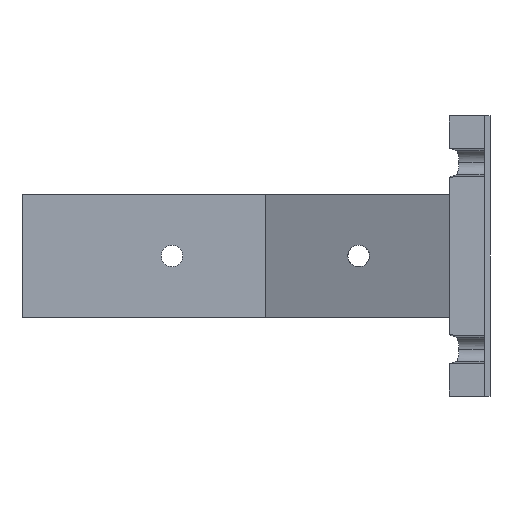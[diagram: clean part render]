
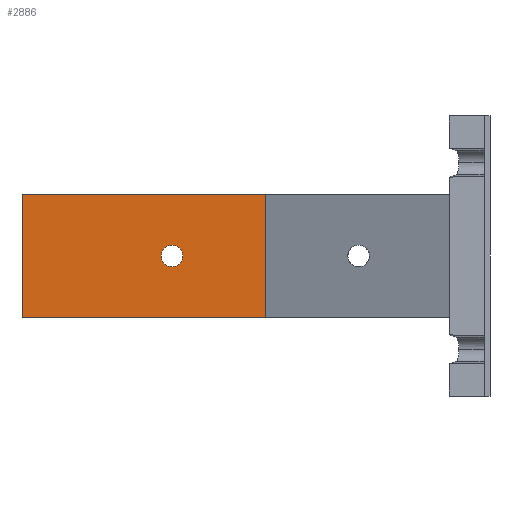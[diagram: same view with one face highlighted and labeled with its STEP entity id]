
A CAD part, left-side view. The second image highlights one B-rep face of the part: STEP entity #2886.
In plain terms, the highlighted planar face has unit normal (-1, 0, 0).
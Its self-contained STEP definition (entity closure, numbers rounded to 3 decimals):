
#11 = CARTESIAN_POINT ( 'NONE',  ( 4.4, 37.424, -9.07 ) ) ;
#41 = DIRECTION ( 'NONE',  ( 0., 1., 0. ) ) ;
#42 = DIRECTION ( 'NONE',  ( -1., 0., 0. ) ) ;
#43 = PLANE ( 'NONE',  #2527 ) ;
#372 = CARTESIAN_POINT ( 'NONE',  ( 4.4, 79.201, -10.55 ) ) ;
#413 = CARTESIAN_POINT ( 'NONE',  ( 4.4, 79.201, 10.55 ) ) ;
#420 = CARTESIAN_POINT ( 'NONE',  ( 4.4, 37.424, -10.55 ) ) ;
#446 = CARTESIAN_POINT ( 'NONE',  ( 4.4, 51.65, 0. ) ) ;
#491 = CARTESIAN_POINT ( 'NONE',  ( 4.4, 37.424, 10.55 ) ) ;
#513 = CARTESIAN_POINT ( 'NONE',  ( 4.4, 55.35, 0. ) ) ;
#562 = LINE ( 'NONE', #2115, #574 ) ;
#574 = VECTOR ( 'NONE', #2172, 1000. ) ;
#679 = FACE_BOUND ( 'NONE', #1294, .T. ) ;
#708 = FACE_OUTER_BOUND ( 'NONE', #1296, .T. ) ;
#822 = CIRCLE ( 'NONE', #2470, 1.85 ) ;
#854 = VECTOR ( 'NONE', #3695, 1000. ) ;
#855 = LINE ( 'NONE', #3694, #854 ) ;
#998 = CIRCLE ( 'NONE', #2469, 1.85 ) ;
#1294 = EDGE_LOOP ( 'NONE', ( #1784, #1856 ) ) ;
#1296 = EDGE_LOOP ( 'NONE', ( #1855, #1777, #1861, #1859 ) ) ;
#1388 = LINE ( 'NONE', #3329, #1434 ) ;
#1434 = VECTOR ( 'NONE', #3330, 1000. ) ;
#1777 = ORIENTED_EDGE ( 'NONE', *, *, #2485, .T. ) ;
#1784 = ORIENTED_EDGE ( 'NONE', *, *, #2511, .F. ) ;
#1855 = ORIENTED_EDGE ( 'NONE', *, *, #2706, .F. ) ;
#1856 = ORIENTED_EDGE ( 'NONE', *, *, #2741, .F. ) ;
#1859 = ORIENTED_EDGE ( 'NONE', *, *, #2778, .F. ) ;
#1861 = ORIENTED_EDGE ( 'NONE', *, *, #2448, .T. ) ;
#2014 = VECTOR ( 'NONE', #3460, 1000. ) ;
#2026 = LINE ( 'NONE', #3461, #2014 ) ;
#2115 = CARTESIAN_POINT ( 'NONE',  ( 4.4, 37.424, -10.55 ) ) ;
#2172 = DIRECTION ( 'NONE',  ( 0., 1., 0. ) ) ;
#2448 = EDGE_CURVE ( 'NONE', #3367, #3432, #1388, .T. ) ;
#2469 = AXIS2_PLACEMENT_3D ( 'NONE', #3114, #3112, #3110 ) ;
#2470 = AXIS2_PLACEMENT_3D ( 'NONE', #3739, #3748, #3749 ) ;
#2485 = EDGE_CURVE ( 'NONE', #3147, #3367, #2026, .T. ) ;
#2511 = EDGE_CURVE ( 'NONE', #3254, #3448, #998, .T. ) ;
#2527 = AXIS2_PLACEMENT_3D ( 'NONE', #11, #42, #41 ) ;
#2706 = EDGE_CURVE ( 'NONE', #3147, #3364, #855, .T. ) ;
#2741 = EDGE_CURVE ( 'NONE', #3448, #3254, #822, .T. ) ;
#2778 = EDGE_CURVE ( 'NONE', #3364, #3432, #562, .T. ) ;
#2886 = ADVANCED_FACE ( 'NONE', ( #679, #708 ), #43, .T. ) ;
#3110 = DIRECTION ( 'NONE',  ( 0., 1., 0. ) ) ;
#3112 = DIRECTION ( 'NONE',  ( -1., 0., 0. ) ) ;
#3114 = CARTESIAN_POINT ( 'NONE',  ( 4.4, 53.5, 0. ) ) ;
#3147 = VERTEX_POINT ( 'NONE', #491 ) ;
#3254 = VERTEX_POINT ( 'NONE', #446 ) ;
#3329 = CARTESIAN_POINT ( 'NONE',  ( 4.4, 79.201, -9.07 ) ) ;
#3330 = DIRECTION ( 'NONE',  ( 0., 0., -1. ) ) ;
#3364 = VERTEX_POINT ( 'NONE', #420 ) ;
#3367 = VERTEX_POINT ( 'NONE', #413 ) ;
#3432 = VERTEX_POINT ( 'NONE', #372 ) ;
#3448 = VERTEX_POINT ( 'NONE', #513 ) ;
#3460 = DIRECTION ( 'NONE',  ( 0., 1., 0. ) ) ;
#3461 = CARTESIAN_POINT ( 'NONE',  ( 4.4, 37.424, 10.55 ) ) ;
#3694 = CARTESIAN_POINT ( 'NONE',  ( 4.4, 37.424, -9.07 ) ) ;
#3695 = DIRECTION ( 'NONE',  ( 0., 0., -1. ) ) ;
#3739 = CARTESIAN_POINT ( 'NONE',  ( 4.4, 53.5, 0. ) ) ;
#3748 = DIRECTION ( 'NONE',  ( -1., 0., 0. ) ) ;
#3749 = DIRECTION ( 'NONE',  ( 0., 1., 0. ) ) ;
